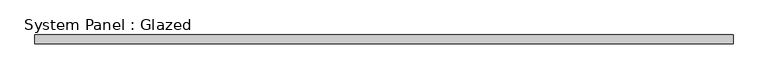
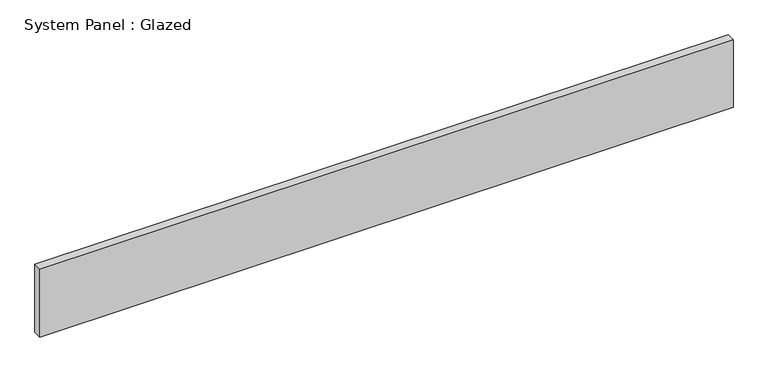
"""IFC4 building model written with IfcOpenShell, lengths in millimetres: plate geometry, System Panel : Glazed."""

from ifc_helpers import new_model, si_unit, origin, origin_with_axes, place, context, project, spatial, polyline, outline, extrude, source, transform, mapped, element, save


def system_panel_glazed_266ebcb8(model_context):
    return source(origin(), model_context, "Body", "SweptSolid", [
        extrude(outline(polyline([(1016.0, 19.05), (-1016.0, 19.05), (-1016.0, 44.45), (1016.0, 44.45), (1016.0, 19.05)])), origin_with_axes(), (0.0, 0.0, 1.0), 209.55),
    ])


if __name__ == "__main__":
    model = new_model("IFC4")
    model_context = context("Model", 3, world=origin())
    ifc_project = project(units=[si_unit("LENGTHUNIT", "METRE", prefix="MILLI")], contexts=[model_context])
    site = spatial("IfcSite", under=ifc_project)
    building = spatial("IfcBuilding", under=site)
    placement = place(None, origin())
    system_panel_glazed_shape = system_panel_glazed_266ebcb8(model_context)
    element("IfcPlate", 1, ObjectType="System Panel : Glazed", at=placement, inside=building, context=model_context, shape_type="MappedRepresentation", body=[
        mapped(system_panel_glazed_shape, transform((0.0, 0.0, 0.0), x_axis=(1.0, 0.0, 0.0), y_axis=(0.0, 1.0, 0.0), z_axis=(0.0, 0.0, 1.0))),
    ])
    save(model, "model.ifc")
